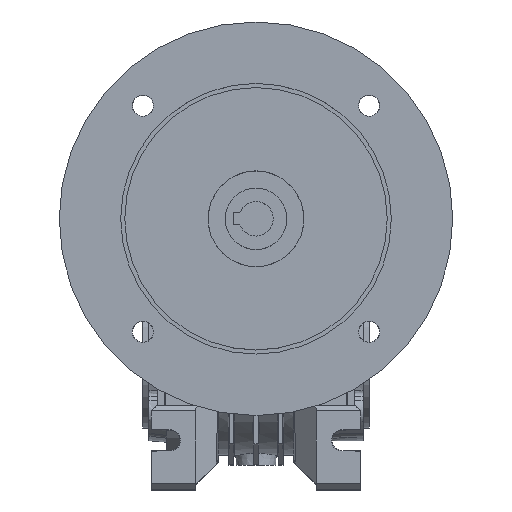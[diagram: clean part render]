
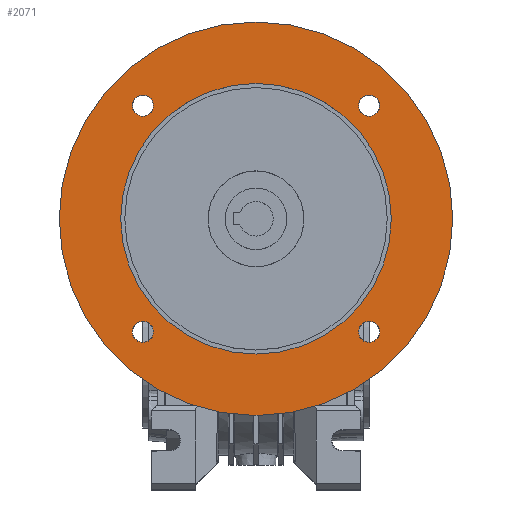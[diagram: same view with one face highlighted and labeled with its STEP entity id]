
A CAD part, top view. The second image highlights one B-rep face of the part: STEP entity #2071.
In plain terms, the highlighted planar face has unit normal (0, 0, 1).
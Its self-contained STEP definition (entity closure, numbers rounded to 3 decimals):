
#2071 = ADVANCED_FACE( 'NONE', ( #4280, #4281, #4282, #4283, #4284, #4285 ), #4286, .T. );
#4280 = FACE_OUTER_BOUND( '', #6930, .T. );
#4281 = FACE_BOUND( '', #6931, .T. );
#4282 = FACE_BOUND( '', #6932, .T. );
#4283 = FACE_BOUND( '', #6933, .T. );
#4284 = FACE_BOUND( '', #6934, .T. );
#4285 = FACE_BOUND( '', #6935, .T. );
#4286 = PLANE( '', #6936 );
#6930 = EDGE_LOOP( '', ( #13423 ) );
#6931 = EDGE_LOOP( '', ( #13424 ) );
#6932 = EDGE_LOOP( '', ( #13425 ) );
#6933 = EDGE_LOOP( '', ( #13426 ) );
#6934 = EDGE_LOOP( '', ( #13427 ) );
#6935 = EDGE_LOOP( '', ( #13428 ) );
#6936 = AXIS2_PLACEMENT_3D( '', #13429, #13430, #13431 );
#13423 = ORIENTED_EDGE( '', *, *, #16096, .T. );
#13424 = ORIENTED_EDGE( '', *, *, #16506, .T. );
#13425 = ORIENTED_EDGE( '', *, *, #16520, .T. );
#13426 = ORIENTED_EDGE( '', *, *, #15930, .T. );
#13427 = ORIENTED_EDGE( '', *, *, #14534, .T. );
#13428 = ORIENTED_EDGE( '', *, *, #16448, .T. );
#13429 = CARTESIAN_POINT( '', ( 0., -85., 16. ) );
#13430 = DIRECTION( '', ( 0., 0., 1. ) );
#13431 = DIRECTION( '', ( -1., 0., 0. ) );
#14534 = EDGE_CURVE( 'NONE', #17722, #17722, #17723, .F. );
#15930 = EDGE_CURVE( 'NONE', #19838, #19838, #19839, .F. );
#16096 = EDGE_CURVE( 'NONE', #20044, #20044, #20045, .T. );
#16448 = EDGE_CURVE( 'NONE', #20432, #20432, #20433, .F. );
#16506 = EDGE_CURVE( 'NONE', #20493, #20493, #20494, .F. );
#16520 = EDGE_CURVE( 'NONE', #20508, #20508, #20509, .F. );
#17722 = VERTEX_POINT( '', #23045 );
#17723 = CIRCLE( '', #23046, 4.296 );
#19838 = VERTEX_POINT( '', #27292 );
#19839 = CIRCLE( '', #27293, 4.296 );
#20044 = VERTEX_POINT( '', #27616 );
#20045 = CIRCLE( '', #27617, 79.974 );
#20432 = VERTEX_POINT( '', #28250 );
#20433 = CIRCLE( '', #28251, 55. );
#20493 = VERTEX_POINT( '', #28330 );
#20494 = CIRCLE( '', #28331, 4.296 );
#20508 = VERTEX_POINT( '', #28345 );
#20509 = CIRCLE( '', #28346, 4.296 );
#23045 = CARTESIAN_POINT( '', ( 41.666, 45.962, 16. ) );
#23046 = AXIS2_PLACEMENT_3D( '', #29146, #29147, #29148 );
#27292 = CARTESIAN_POINT( '', ( -50.258, -45.962, 16. ) );
#27293 = AXIS2_PLACEMENT_3D( '', #30560, #30561, #30562 );
#27616 = CARTESIAN_POINT( '', ( -79.974, 0., 16. ) );
#27617 = AXIS2_PLACEMENT_3D( '', #30692, #30693, #30694 );
#28250 = CARTESIAN_POINT( '', ( -55., 0., 16. ) );
#28251 = AXIS2_PLACEMENT_3D( '', #30912, #30913, #30914 );
#28330 = CARTESIAN_POINT( '', ( 41.666, -45.962, 16. ) );
#28331 = AXIS2_PLACEMENT_3D( '', #30931, #30932, #30933 );
#28345 = CARTESIAN_POINT( '', ( -50.258, 45.962, 16. ) );
#28346 = AXIS2_PLACEMENT_3D( '', #30934, #30935, #30936 );
#29146 = CARTESIAN_POINT( '', ( 45.962, 45.962, 16. ) );
#29147 = DIRECTION( '', ( 0., 0., 1. ) );
#29148 = DIRECTION( '', ( -1., 0., 0. ) );
#30560 = CARTESIAN_POINT( '', ( -45.962, -45.962, 16. ) );
#30561 = DIRECTION( '', ( 0., 0., 1. ) );
#30562 = DIRECTION( '', ( -1., 0., 0. ) );
#30692 = CARTESIAN_POINT( '', ( 0., 0., 16. ) );
#30693 = DIRECTION( '', ( 0., 0., 1. ) );
#30694 = DIRECTION( '', ( -1., 0., 0. ) );
#30912 = CARTESIAN_POINT( '', ( 0., 0., 16. ) );
#30913 = DIRECTION( '', ( 0., 0., 1. ) );
#30914 = DIRECTION( '', ( -1., 0., 0. ) );
#30931 = CARTESIAN_POINT( '', ( 45.962, -45.962, 16. ) );
#30932 = DIRECTION( '', ( 0., 0., 1. ) );
#30933 = DIRECTION( '', ( -1., 0., 0. ) );
#30934 = CARTESIAN_POINT( '', ( -45.962, 45.962, 16. ) );
#30935 = DIRECTION( '', ( 0., 0., 1. ) );
#30936 = DIRECTION( '', ( -1., 0., 0. ) );
